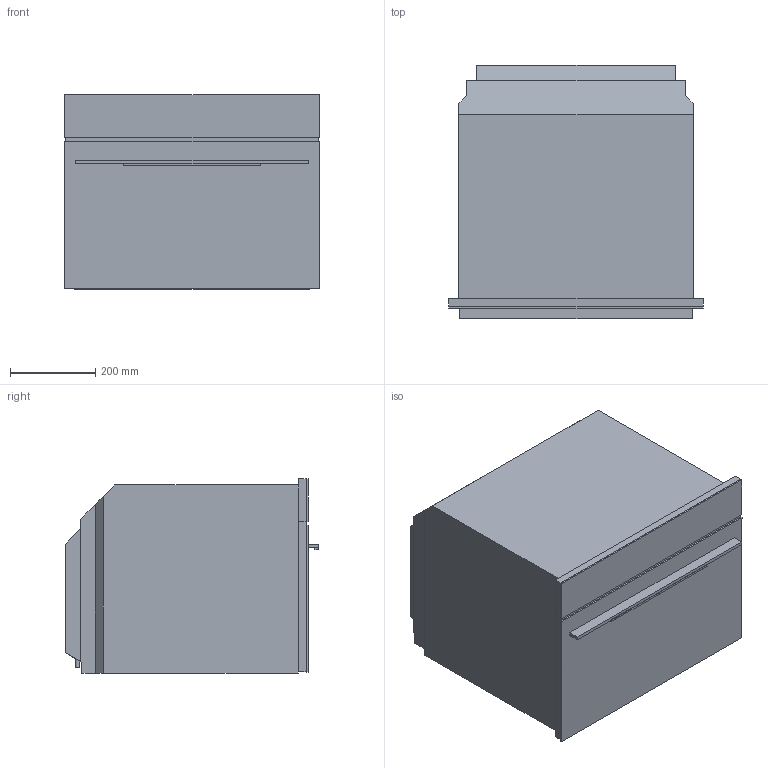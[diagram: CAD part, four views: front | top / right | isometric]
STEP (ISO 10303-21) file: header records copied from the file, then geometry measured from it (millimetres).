
FILE_DESCRIPTION(/* description */ ('Unknown'),/* implementation_level */ '2;1');
FILE_NAME(/* name */ 'SO4106WAPB3',/* time_stamp */ '2025-10-21T09:30:17+02:00',/* author */ ('Unknown'),/* organization */ ('Unknown'),/* preprocessor_version */ 'ST-DEVELOPER v16.7',/* originating_system */ 'DEX',/* authorisation */ $);
FILE_SCHEMA (('AUTOMOTIVE_DESIGN {1 0 10303 214 3 1 1}'));
Length unit declared in the file: millimetre
Products named in the file (1): SO4106WAPB3
Bounding box: 597 x 594.7 x 456.55 mm (x, y, z)
Volume: 132398787.2 mm3; surface area: 2162313.6 mm2
Topology: 3 solids, 3 shells, 54 faces, 135 edges, 90 vertices
Faces by surface type: plane 50, cone 3, cylinder 1
Full cylindrical faces by diameter (mm): 10 x1
Entity records: 1898 total; most frequent: CARTESIAN_POINT 269, ORIENTED_EDGE 252, DIRECTION 241, EDGE_CURVE 126, LINE 121, VECTOR 121, VERTEX_POINT 88, FACE_BOUND 64
